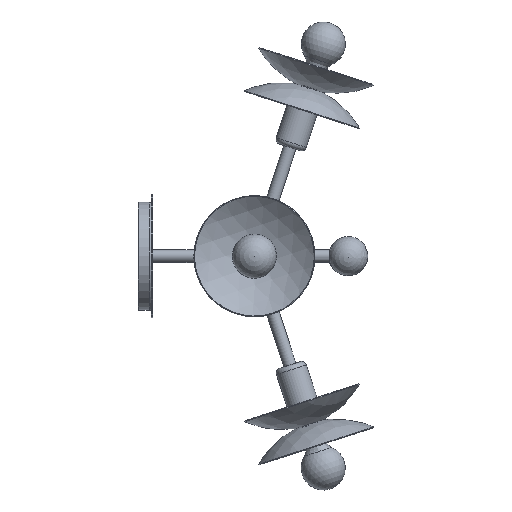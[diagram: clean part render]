
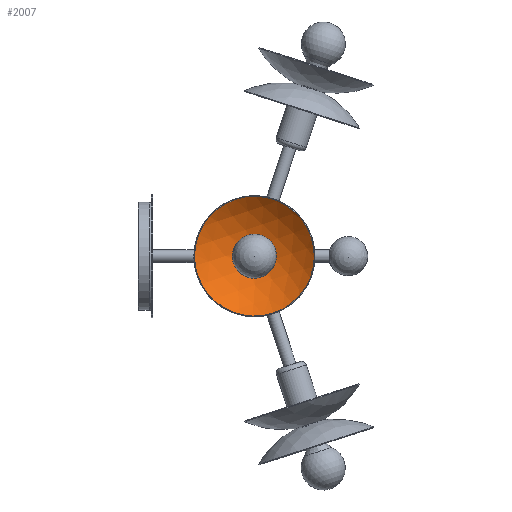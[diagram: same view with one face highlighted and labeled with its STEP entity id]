
A CAD part, front view. The second image highlights one B-rep face of the part: STEP entity #2007.
In plain terms, the highlighted spherical face has radius 90 mm.
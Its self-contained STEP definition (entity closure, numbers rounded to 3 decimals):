
#42=SPHERICAL_SURFACE('',#2290,90.);
#104=FACE_BOUND('',#429,.T.);
#137=B_SPLINE_CURVE_WITH_KNOTS('',3,(#3883,#3884,#3885,#3886,#3887,#3888,
#3889,#3890,#3891,#3892,#3893,#3894,#3895,#3896,#3897,#3898,#3899,#3900,
#3901,#3902,#3903,#3904,#3905,#3906,#3907,#3908,#3909,#3910,#3911,#3912,
#3913,#3914,#3915,#3916,#3917,#3918,#3919,#3920,#3921,#3922,#3923,#3924,
#3925,#3926,#3927,#3928,#3929,#3930,#3931,#3932,#3933,#3934,#3935,#3936,
#3937,#3938,#3939,#3940,#3941,#3942,#3943,#3944,#3945,#3946,#3947,#3948,
#3949,#3950,#3951,#3952,#3953,#3954,#3955,#3956,#3957,#3958,#3959,#3960),
 .UNSPECIFIED.,.T.,.F.,(4,2,2,2,2,2,2,2,2,2,2,2,2,2,2,2,2,2,2,2,2,2,2,2,
2,2,2,2,2,2,2,2,2,2,2,2,2,2,4),(0.,0.153,0.306,
0.459,0.611,0.765,0.919,1.226,
1.535,1.844,2.154,2.464,2.775,
3.086,3.398,3.71,4.023,4.335,
4.648,4.961,5.274,5.587,5.9,
6.212,6.524,6.836,7.147,7.458,
7.769,8.079,8.388,8.697,9.004,
9.158,9.311,9.464,9.617,9.77,
9.922),.UNSPECIFIED.);
#263=FACE_OUTER_BOUND('',#428,.T.);
#428=EDGE_LOOP('',(#1541));
#429=EDGE_LOOP('',(#1542));
#727=CIRCLE('',#2291,60.832);
#894=VERTEX_POINT('',#3882);
#903=VERTEX_POINT('',#4069);
#1113=EDGE_CURVE('',#894,#894,#137,.T.);
#1130=EDGE_CURVE('',#903,#903,#727,.T.);
#1541=ORIENTED_EDGE('',*,*,#1130,.F.);
#1542=ORIENTED_EDGE('',*,*,#1113,.T.);
#2007=ADVANCED_FACE('',(#263,#104),#42,.F.);
#2290=AXIS2_PLACEMENT_3D('',#4068,#2841,#2842);
#2291=AXIS2_PLACEMENT_3D('',#4070,#2843,#2844);
#2841=DIRECTION('center_axis',(-0.319,0.,
0.948));
#2842=DIRECTION('ref_axis',(0.948,0.,0.319));
#2843=DIRECTION('center_axis',(0.,1.,0.));
#2844=DIRECTION('ref_axis',(0.948,0.,0.319));
#3882=CARTESIAN_POINT('',(126.8,-185.388,14.757));
#3883=CARTESIAN_POINT('Ctrl Pts',(126.8,-185.388,14.757));
#3884=CARTESIAN_POINT('Ctrl Pts',(127.255,-185.389,14.986));
#3885=CARTESIAN_POINT('Ctrl Pts',(127.742,-185.39,15.205));
#3886=CARTESIAN_POINT('Ctrl Pts',(128.756,-185.393,15.599));
#3887=CARTESIAN_POINT('Ctrl Pts',(129.284,-185.394,15.775));
#3888=CARTESIAN_POINT('Ctrl Pts',(130.355,-185.397,16.071));
#3889=CARTESIAN_POINT('Ctrl Pts',(130.898,-185.398,16.192));
#3890=CARTESIAN_POINT('Ctrl Pts',(131.971,-185.401,16.376));
#3891=CARTESIAN_POINT('Ctrl Pts',(132.501,-185.402,16.439));
#3892=CARTESIAN_POINT('Ctrl Pts',(133.52,-185.405,16.515));
#3893=CARTESIAN_POINT('Ctrl Pts',(134.057,-185.406,16.53));
#3894=CARTESIAN_POINT('Ctrl Pts',(135.152,-185.409,16.506));
#3895=CARTESIAN_POINT('Ctrl Pts',(135.71,-185.411,16.465));
#3896=CARTESIAN_POINT('Ctrl Pts',(137.374,-185.415,16.26));
#3897=CARTESIAN_POINT('Ctrl Pts',(138.469,-185.418,16.004));
#3898=CARTESIAN_POINT('Ctrl Pts',(140.418,-185.424,15.358));
#3899=CARTESIAN_POINT('Ctrl Pts',(141.453,-185.427,14.908));
#3900=CARTESIAN_POINT('Ctrl Pts',(143.403,-185.433,13.8));
#3901=CARTESIAN_POINT('Ctrl Pts',(144.319,-185.436,13.141));
#3902=CARTESIAN_POINT('Ctrl Pts',(145.879,-185.441,11.791));
#3903=CARTESIAN_POINT('Ctrl Pts',(146.665,-185.444,10.975));
#3904=CARTESIAN_POINT('Ctrl Pts',(148.048,-185.45,9.193));
#3905=CARTESIAN_POINT('Ctrl Pts',(148.643,-185.452,8.229));
#3906=CARTESIAN_POINT('Ctrl Pts',(149.568,-185.457,6.376));
#3907=CARTESIAN_POINT('Ctrl Pts',(149.981,-185.46,5.317));
#3908=CARTESIAN_POINT('Ctrl Pts',(150.574,-185.465,3.135));
#3909=CARTESIAN_POINT('Ctrl Pts',(150.754,-185.467,2.013));
#3910=CARTESIAN_POINT('Ctrl Pts',(150.896,-185.471,-0.059));
#3911=CARTESIAN_POINT('Ctrl Pts',(150.87,-185.473,-1.2));
#3912=CARTESIAN_POINT('Ctrl Pts',(150.578,-185.477,-3.449));
#3913=CARTESIAN_POINT('Ctrl Pts',(150.311,-185.479,-4.558));
#3914=CARTESIAN_POINT('Ctrl Pts',(149.643,-185.482,-6.53));
#3915=CARTESIAN_POINT('Ctrl Pts',(149.18,-185.483,-7.574));
#3916=CARTESIAN_POINT('Ctrl Pts',(148.043,-185.485,-9.541));
#3917=CARTESIAN_POINT('Ctrl Pts',(147.369,-185.487,-10.463));
#3918=CARTESIAN_POINT('Ctrl Pts',(145.992,-185.488,-12.028));
#3919=CARTESIAN_POINT('Ctrl Pts',(145.161,-185.489,-12.815));
#3920=CARTESIAN_POINT('Ctrl Pts',(143.353,-185.489,-14.194));
#3921=CARTESIAN_POINT('Ctrl Pts',(142.375,-185.49,-14.786));
#3922=CARTESIAN_POINT('Ctrl Pts',(140.5,-185.49,-15.701));
#3923=CARTESIAN_POINT('Ctrl Pts',(139.43,-185.489,-16.108));
#3924=CARTESIAN_POINT('Ctrl Pts',(137.23,-185.489,-16.684));
#3925=CARTESIAN_POINT('Ctrl Pts',(136.098,-185.488,-16.854));
#3926=CARTESIAN_POINT('Ctrl Pts',(134.016,-185.487,-16.977));
#3927=CARTESIAN_POINT('Ctrl Pts',(132.874,-185.485,-16.94));
#3928=CARTESIAN_POINT('Ctrl Pts',(130.624,-185.483,-16.625));
#3929=CARTESIAN_POINT('Ctrl Pts',(129.515,-185.482,-16.347));
#3930=CARTESIAN_POINT('Ctrl Pts',(127.55,-185.479,-15.66));
#3931=CARTESIAN_POINT('Ctrl Pts',(126.512,-185.477,-15.187));
#3932=CARTESIAN_POINT('Ctrl Pts',(124.56,-185.473,-14.034));
#3933=CARTESIAN_POINT('Ctrl Pts',(123.646,-185.471,-13.352));
#3934=CARTESIAN_POINT('Ctrl Pts',(122.101,-185.467,-11.965));
#3935=CARTESIAN_POINT('Ctrl Pts',(121.327,-185.465,-11.133));
#3936=CARTESIAN_POINT('Ctrl Pts',(119.974,-185.46,-9.323));
#3937=CARTESIAN_POINT('Ctrl Pts',(119.394,-185.457,-8.346));
#3938=CARTESIAN_POINT('Ctrl Pts',(118.502,-185.452,-6.477));
#3939=CARTESIAN_POINT('Ctrl Pts',(118.108,-185.45,-5.412));
#3940=CARTESIAN_POINT('Ctrl Pts',(117.554,-185.444,-3.224));
#3941=CARTESIAN_POINT('Ctrl Pts',(117.395,-185.441,-2.101));
#3942=CARTESIAN_POINT('Ctrl Pts',(117.291,-185.436,-0.039));
#3943=CARTESIAN_POINT('Ctrl Pts',(117.337,-185.433,1.09));
#3944=CARTESIAN_POINT('Ctrl Pts',(117.665,-185.427,3.311));
#3945=CARTESIAN_POINT('Ctrl Pts',(117.948,-185.424,4.404));
#3946=CARTESIAN_POINT('Ctrl Pts',(118.64,-185.418,6.337));
#3947=CARTESIAN_POINT('Ctrl Pts',(119.113,-185.415,7.357));
#3948=CARTESIAN_POINT('Ctrl Pts',(119.975,-185.411,8.793));
#3949=CARTESIAN_POINT('Ctrl Pts',(120.286,-185.409,9.257));
#3950=CARTESIAN_POINT('Ctrl Pts',(120.941,-185.406,10.134));
#3951=CARTESIAN_POINT('Ctrl Pts',(121.283,-185.405,10.547));
#3952=CARTESIAN_POINT('Ctrl Pts',(121.969,-185.402,11.303));
#3953=CARTESIAN_POINT('Ctrl Pts',(122.345,-185.401,11.681));
#3954=CARTESIAN_POINT('Ctrl Pts',(123.15,-185.398,12.413));
#3955=CARTESIAN_POINT('Ctrl Pts',(123.579,-185.397,12.766));
#3956=CARTESIAN_POINT('Ctrl Pts',(124.471,-185.394,13.427));
#3957=CARTESIAN_POINT('Ctrl Pts',(124.934,-185.393,13.734));
#3958=CARTESIAN_POINT('Ctrl Pts',(125.868,-185.39,14.291));
#3959=CARTESIAN_POINT('Ctrl Pts',(126.34,-185.389,14.54));
#3960=CARTESIAN_POINT('Ctrl Pts',(126.8,-185.388,14.757));
#4068=CARTESIAN_POINT('Origin',(134.,-273.877,0.));
#4069=CARTESIAN_POINT('',(191.645,-207.548,19.43));
#4070=CARTESIAN_POINT('Origin',(134.,-207.548,0.));
